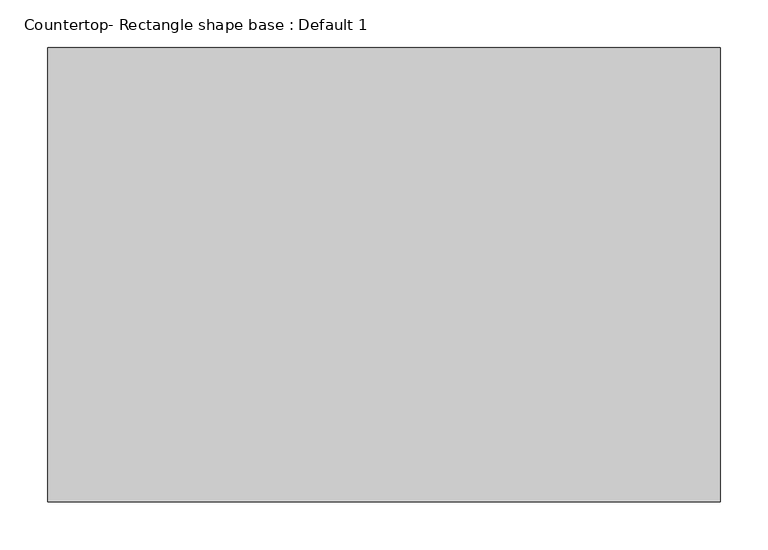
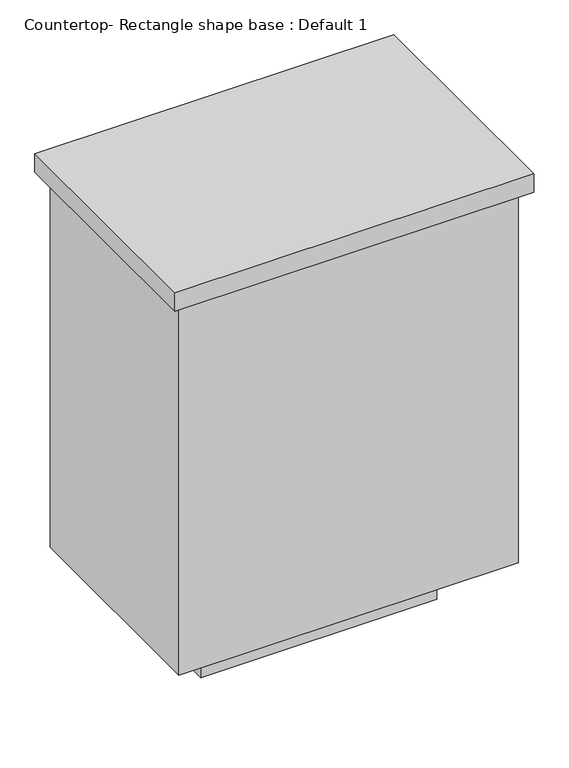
"""IFC4 building model written with IfcOpenShell, lengths in millimetres: proxy geometry, Countertop- Rectangle shape base : Default 1."""

from ifc_helpers import new_model, si_unit, frame, origin, origin_with_axes, place, context, project, spatial, polyline, outline, extrude, source, transform, mapped, element, save


def countertop_rectangle_shape_base_default_1_9c101704(model_context):
    return source(origin(), model_context, "Body", "SweptSolid", [
        extrude(outline(polyline([(409.575, 142.875), (409.575, 619.125), (1114.425, 619.125), (1114.425, 142.875), (409.575, 142.875)])), frame((0.0, 0.0, 876.3), z_axis=(0.0, 0.0, 1.0), x_axis=(1.0, 0.0, 0.0)), (0.0, 0.0, 1.0), 38.1),
        extrude(outline(polyline([(1095.375, 600.075), (1095.375, 161.925), (428.625, 161.925), (428.625, 600.075), (1095.375, 600.075)])), frame((0.0, 0.0, 101.6), z_axis=(0.0, 0.0, 1.0), x_axis=(1.0, 0.0, 0.0)), (0.0, 0.0, 1.0), 774.7),
        extrude(outline(polyline([(993.775, 498.475), (993.775, 263.525), (530.225, 263.525), (530.225, 498.475), (993.775, 498.475)])), origin_with_axes(), (0.0, 0.0, 1.0), 101.6),
    ])


if __name__ == "__main__":
    model = new_model("IFC4")
    model_context = context("Model", 3, world=origin())
    ifc_project = project(units=[si_unit("LENGTHUNIT", "METRE", prefix="MILLI")], contexts=[model_context])
    site = spatial("IfcSite", under=ifc_project)
    building = spatial("IfcBuilding", under=site)
    placement = place(None, origin())
    countertop_rectangle_shape_base_default_1_shape = countertop_rectangle_shape_base_default_1_9c101704(model_context)
    element("IfcBuildingElementProxy", 1, Name="Countertop- Rectangle shape base : Default 1", ObjectType="Countertop- Rectangle shape base : Default 1", at=placement, inside=building, context=model_context, shape_type="MappedRepresentation", body=[
        mapped(countertop_rectangle_shape_base_default_1_shape, transform((0.0, 0.0, 0.0), x_axis=(1.0, 0.0, 0.0), y_axis=(0.0, 1.0, 0.0), z_axis=(0.0, 0.0, 1.0))),
    ])
    save(model, "model.ifc")
